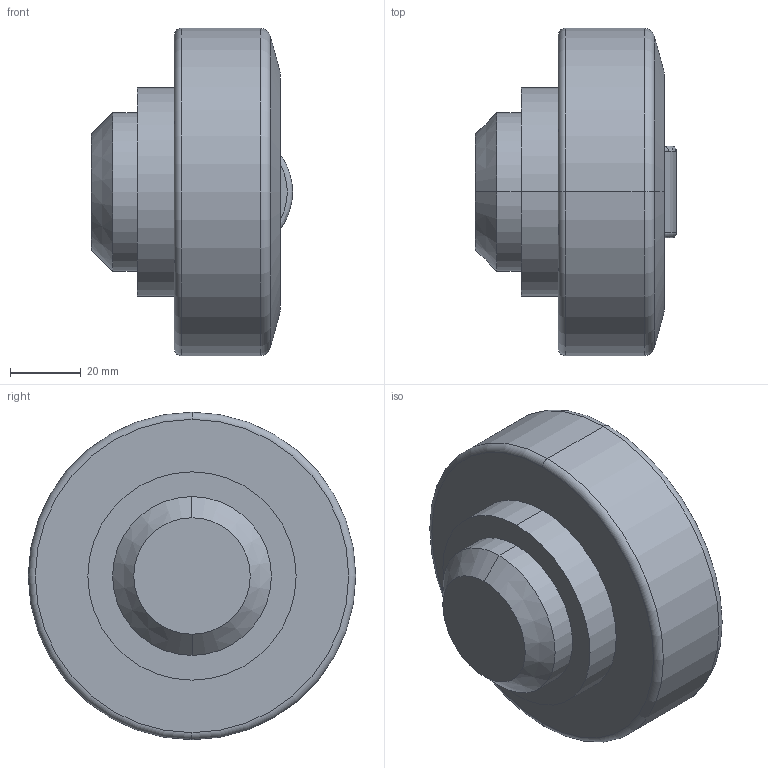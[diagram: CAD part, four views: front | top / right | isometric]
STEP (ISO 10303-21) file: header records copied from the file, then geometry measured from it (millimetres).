
FILE_DESCRIPTION (( 'STEP AP214' ), '1' );
FILE_NAME ('4.0058 PR.STEP', '2013-12-05T08:26:35', ( 'usuario' ), ( 'Hewlett-Packard Company' ), 'SwSTEP 2.0', 'SolidWorks 2017', '' );
FILE_SCHEMA (( 'AUTOMOTIVE_DESIGN' ));
Length unit declared in the file: millimetre
Products named in the file (1): 4.0058 PR
Bounding box: 57 x 92.8 x 92.8 mm (x, y, z)
Volume: 245039.5 mm3; surface area: 24297.6 mm2
Topology: 1 solids, 1 shells, 23 faces, 46 edges, 28 vertices
Faces by surface type: cylinder 7, torus 6, plane 6, cone 4
Entity records: 678 total; most frequent: CARTESIAN_POINT 146, DIRECTION 118, ORIENTED_EDGE 92, AXIS2_PLACEMENT_3D 52, EDGE_CURVE 46, CIRCLE 28, VERTEX_POINT 28, EDGE_LOOP 26
